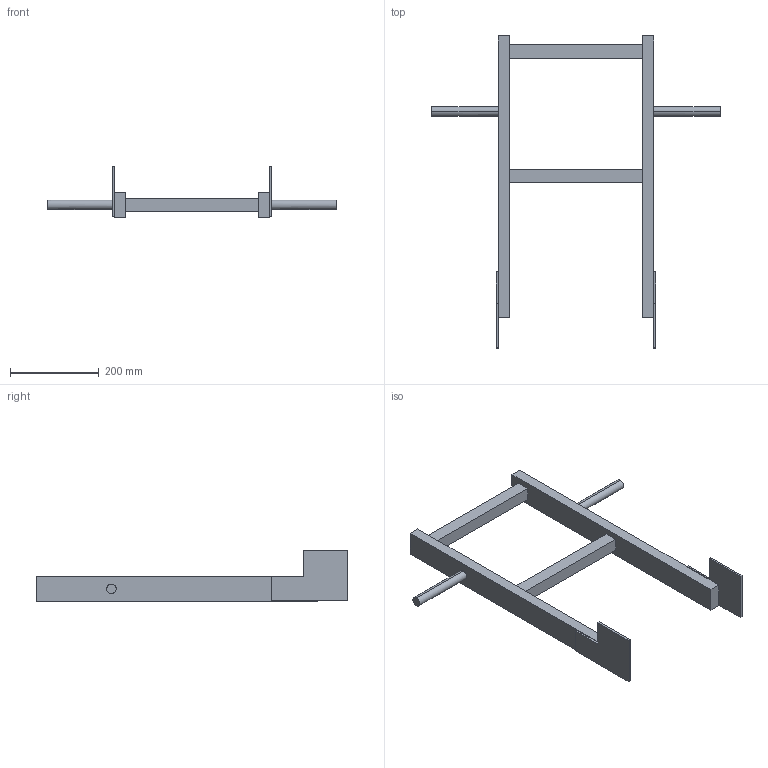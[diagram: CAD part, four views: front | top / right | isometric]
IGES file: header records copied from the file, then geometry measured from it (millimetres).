
Start section:  PTC IGES file: 52330562.igs
Global section: file name: 52330562.igs; native system: Creo Parametric by PTC Inc.; preprocessor: 2022162; author: wep; organization: Unknown; date: 20241218.075943; units: millimetre
Bounding box: 650 x 703 x 115 mm (x, y, z)
Surface area: 346354.8 mm2 (no closed solid volume)
Topology: 0 solids, 0 shells, 42 faces, 208 edges, 208 vertices
Faces by surface type: bspline 38, revolution 4
